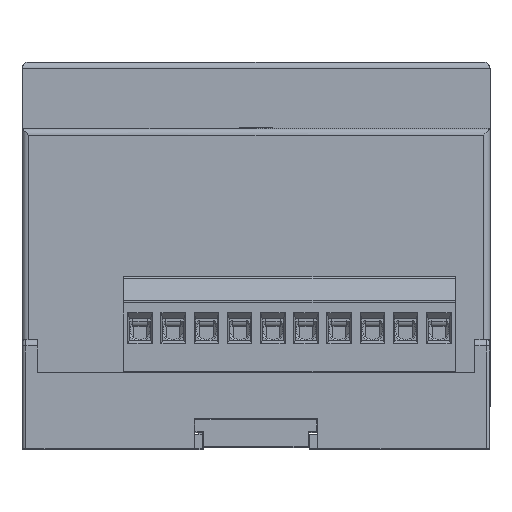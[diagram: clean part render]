
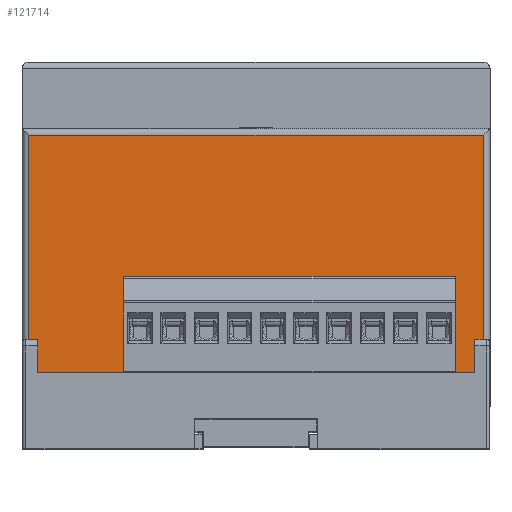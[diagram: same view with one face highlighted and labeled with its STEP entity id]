
A CAD part, top view. The second image highlights one B-rep face of the part: STEP entity #121714.
In plain terms, the highlighted planar face has unit normal (0, 0, 1).
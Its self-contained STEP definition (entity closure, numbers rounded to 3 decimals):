
#55 = ORIENTED_EDGE ( 'NONE', *, *, #103934, .T. ) ;
#813 = VERTEX_POINT ( 'NONE', #177163 ) ;
#3950 = CARTESIAN_POINT ( 'NONE',  ( 0., 30.8, 0. ) ) ;
#5189 = DIRECTION ( 'NONE',  ( -1., 0., 0. ) ) ;
#5604 = CARTESIAN_POINT ( 'NONE',  ( 67.5, -5., 0. ) ) ;
#12712 = CARTESIAN_POINT ( 'NONE',  ( 69., -9., 0. ) ) ;
#13383 = DIRECTION ( 'NONE',  ( 0., -1., 0. ) ) ;
#15021 = LINE ( 'NONE', #39672, #131450 ) ;
#15733 = LINE ( 'NONE', #77472, #51347 ) ;
#27727 = EDGE_CURVE ( 'NONE', #185198, #65867, #15733, .T. ) ;
#28016 = CARTESIAN_POINT ( 'NONE',  ( 1.5, -9., 0. ) ) ;
#28061 = VECTOR ( 'NONE', #141705, 1000. ) ;
#29312 = EDGE_CURVE ( 'NONE', #86192, #123476, #121921, .T. ) ;
#29952 = AXIS2_PLACEMENT_3D ( 'NONE', #35096, #96112, #5189 ) ;
#33800 = LINE ( 'NONE', #134723, #38536 ) ;
#35096 = CARTESIAN_POINT ( 'NONE',  ( 0., 31.8, 0. ) ) ;
#36598 = CARTESIAN_POINT ( 'NONE',  ( 69.5, -9., 0. ) ) ;
#37309 = VECTOR ( 'NONE', #143757, 1000. ) ;
#38169 = VERTEX_POINT ( 'NONE', #12712 ) ;
#38536 = VECTOR ( 'NONE', #43768, 1000. ) ;
#39672 = CARTESIAN_POINT ( 'NONE',  ( 1.5, -9., 0. ) ) ;
#40197 = ORIENTED_EDGE ( 'NONE', *, *, #153587, .T. ) ;
#43768 = DIRECTION ( 'NONE',  ( 1., 0., 0. ) ) ;
#47168 = CARTESIAN_POINT ( 'NONE',  ( 67.5, -5., 0. ) ) ;
#49196 = EDGE_CURVE ( 'NONE', #38169, #185198, #33800, .T. ) ;
#51347 = VECTOR ( 'NONE', #168395, 1000. ) ;
#53399 = CARTESIAN_POINT ( 'NONE',  ( 1.5, -6.5, 0. ) ) ;
#54353 = VECTOR ( 'NONE', #116002, 1000. ) ;
#58030 = ORIENTED_EDGE ( 'NONE', *, *, #29312, .F. ) ;
#60719 = VECTOR ( 'NONE', #185831, 1000. ) ;
#61330 = CARTESIAN_POINT ( 'NONE',  ( 1.5, -5., 0. ) ) ;
#63752 = ORIENTED_EDGE ( 'NONE', *, *, #49196, .T. ) ;
#65867 = VERTEX_POINT ( 'NONE', #74832 ) ;
#70114 = CARTESIAN_POINT ( 'NONE',  ( 69., -5., 0. ) ) ;
#71061 = ORIENTED_EDGE ( 'NONE', *, *, #97419, .T. ) ;
#74832 = CARTESIAN_POINT ( 'NONE',  ( 69.5, 30.8, 0. ) ) ;
#76652 = DIRECTION ( 'NONE',  ( 0., -1., 0. ) ) ;
#77472 = CARTESIAN_POINT ( 'NONE',  ( 69.5, 31.8, 0. ) ) ;
#80602 = ORIENTED_EDGE ( 'NONE', *, *, #144818, .F. ) ;
#81462 = VECTOR ( 'NONE', #188416, 1000. ) ;
#82738 = VECTOR ( 'NONE', #76652, 1000. ) ;
#85262 = LINE ( 'NONE', #70114, #54353 ) ;
#86192 = VERTEX_POINT ( 'NONE', #47168 ) ;
#90516 = VERTEX_POINT ( 'NONE', #191390 ) ;
#91047 = CARTESIAN_POINT ( 'NONE',  ( 1.5, -6.5, 0. ) ) ;
#92664 = VERTEX_POINT ( 'NONE', #114493 ) ;
#94625 = CARTESIAN_POINT ( 'NONE',  ( 3., -5., 0. ) ) ;
#96112 = DIRECTION ( 'NONE',  ( 0., 0., -1. ) ) ;
#97419 = EDGE_CURVE ( 'NONE', #813, #92664, #197042, .T. ) ;
#103934 = EDGE_CURVE ( 'NONE', #86192, #90516, #104077, .T. ) ;
#104077 = LINE ( 'NONE', #5604, #28061 ) ;
#105938 = LINE ( 'NONE', #3950, #60719 ) ;
#114493 = CARTESIAN_POINT ( 'NONE',  ( 1., -9., 0. ) ) ;
#115363 = DIRECTION ( 'NONE',  ( 1., 0., 0. ) ) ;
#116002 = DIRECTION ( 'NONE',  ( 0., -1., 0. ) ) ;
#121714 = ADVANCED_FACE ( 'NONE', ( #141925 ), #187079, .F. ) ;
#121921 = LINE ( 'NONE', #157906, #81462 ) ;
#123476 = VERTEX_POINT ( 'NONE', #94625 ) ;
#128082 = VERTEX_POINT ( 'NONE', #28016 ) ;
#131450 = VECTOR ( 'NONE', #115363, 1000. ) ;
#134723 = CARTESIAN_POINT ( 'NONE',  ( 70.5, -9., 0. ) ) ;
#140015 = ORIENTED_EDGE ( 'NONE', *, *, #147354, .T. ) ;
#141705 = DIRECTION ( 'NONE',  ( 0.707, -0.707, 0. ) ) ;
#141925 = FACE_OUTER_BOUND ( 'NONE', #157042, .T. ) ;
#143757 = DIRECTION ( 'NONE',  ( 0.707, 0.707, 0. ) ) ;
#144818 = EDGE_CURVE ( 'NONE', #169807, #128082, #163527, .T. ) ;
#147354 = EDGE_CURVE ( 'NONE', #65867, #813, #105938, .T. ) ;
#153587 = EDGE_CURVE ( 'NONE', #169807, #123476, #153726, .T. ) ;
#153726 = LINE ( 'NONE', #53399, #37309 ) ;
#157042 = EDGE_LOOP ( 'NONE', ( #71061, #194478, #80602, #40197, #58030, #55, #166319, #63752, #178485, #140015 ) ) ;
#157906 = CARTESIAN_POINT ( 'NONE',  ( 1.5, -5., 0. ) ) ;
#161418 = VECTOR ( 'NONE', #13383, 1000. ) ;
#163527 = LINE ( 'NONE', #61330, #82738 ) ;
#163600 = EDGE_CURVE ( 'NONE', #90516, #38169, #85262, .T. ) ;
#164844 = EDGE_CURVE ( 'NONE', #92664, #128082, #15021, .T. ) ;
#166319 = ORIENTED_EDGE ( 'NONE', *, *, #163600, .T. ) ;
#168395 = DIRECTION ( 'NONE',  ( 0., 1., 0. ) ) ;
#169807 = VERTEX_POINT ( 'NONE', #91047 ) ;
#177163 = CARTESIAN_POINT ( 'NONE',  ( 1., 30.8, 0. ) ) ;
#178485 = ORIENTED_EDGE ( 'NONE', *, *, #27727, .T. ) ;
#180710 = CARTESIAN_POINT ( 'NONE',  ( 1., 31.8, 0. ) ) ;
#185198 = VERTEX_POINT ( 'NONE', #36598 ) ;
#185831 = DIRECTION ( 'NONE',  ( -1., 0., 0. ) ) ;
#187079 = PLANE ( 'NONE',  #29952 ) ;
#188416 = DIRECTION ( 'NONE',  ( -1., 0., 0. ) ) ;
#191390 = CARTESIAN_POINT ( 'NONE',  ( 69., -6.5, 0. ) ) ;
#194478 = ORIENTED_EDGE ( 'NONE', *, *, #164844, .T. ) ;
#197042 = LINE ( 'NONE', #180710, #161418 ) ;
